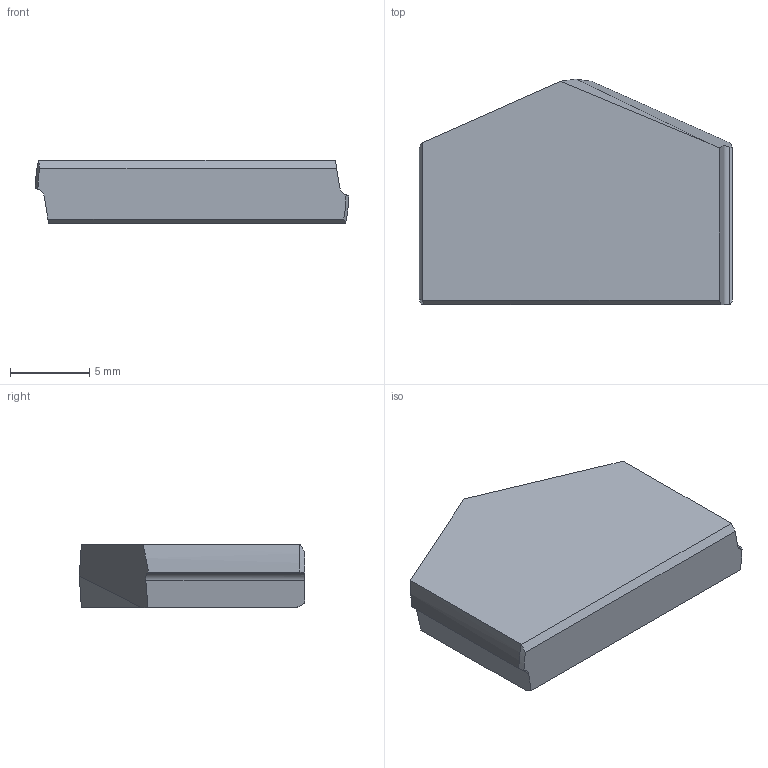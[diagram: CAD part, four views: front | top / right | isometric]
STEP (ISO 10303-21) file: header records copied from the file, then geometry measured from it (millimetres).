
FILE_DESCRIPTION (( 'STEP AP214' ), '1' );
FILE_NAME ('25-32.STEP', '2022-06-24T05:44:12', ( '' ), ( '' ), 'SwSTEP 2.0', 'SolidWorks 2018', '' );
FILE_SCHEMA (( 'AUTOMOTIVE_DESIGN' ));
Length unit declared in the file: millimetre
Products named in the file (1): 25-32
Bounding box: 19.83 x 14.25 x 4 mm (x, y, z)
Volume: 920.1 mm3; surface area: 693.3 mm2
Topology: 1 solids, 1 shells, 19 faces, 50 edges, 33 vertices
Faces by surface type: plane 13, cylinder 4, cone 2
Entity records: 620 total; most frequent: CARTESIAN_POINT 133, ORIENTED_EDGE 100, DIRECTION 86, EDGE_CURVE 50, LINE 34, VECTOR 34, VERTEX_POINT 33, AXIS2_PLACEMENT_3D 26
